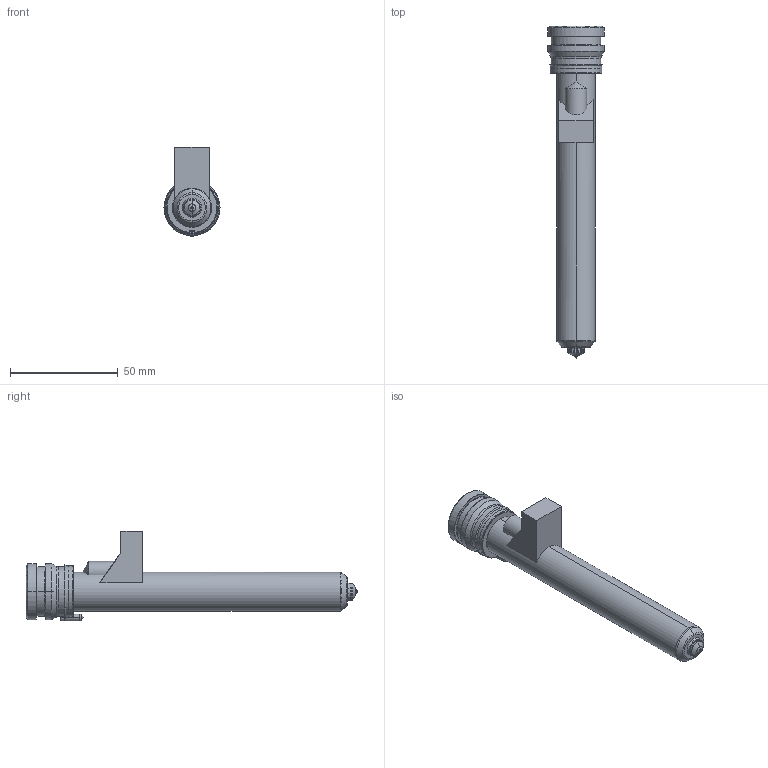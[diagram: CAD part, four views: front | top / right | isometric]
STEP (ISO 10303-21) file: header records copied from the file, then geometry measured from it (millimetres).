
FILE_DESCRIPTION((''),'2;1');
FILE_NAME('MPN-08-24-VSA8-136-M','2026-02-05T13:34:40',('UPTIO'),('Thermoplay S.p.A.'),'CREO PARAMETRIC BY PTC INC, 2023494','CREO PARAMETRIC BY PTC INC, 2023494','');
FILE_SCHEMA(('CONFIG_CONTROL_DESIGN','SHAPE_APPEARANCE_LAYERS_GROUPS'));
Length unit declared in the file: millimetre
Products named in the file (1): MPN-08-24-VSA8-136-M
Bounding box: 26 x 154 x 41.5 mm (x, y, z)
Volume: 29619.3 mm3; surface area: 39311.2 mm2
Topology: 2 solids, 3 shells, 527 faces, 1374 edges, 846 vertices
Faces by surface type: cylinder 176, plane 143, bspline 75, torus 60, cone 58, sphere 9, extrusion 6
Entity records: 27279 total; most frequent: CARTESIAN_POINT 11800, ORIENTED_EDGE 2730, DIRECTION 2497, EDGE_CURVE 1365, AXIS2_PLACEMENT_3D 975, VERTEX_POINT 846, EDGE_LOOP 557, VECTOR 547
